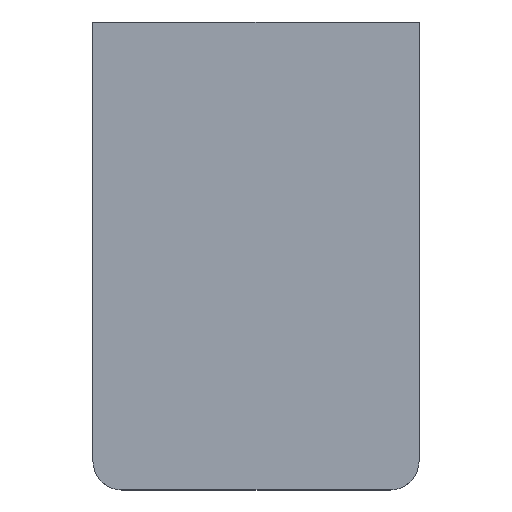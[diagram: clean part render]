
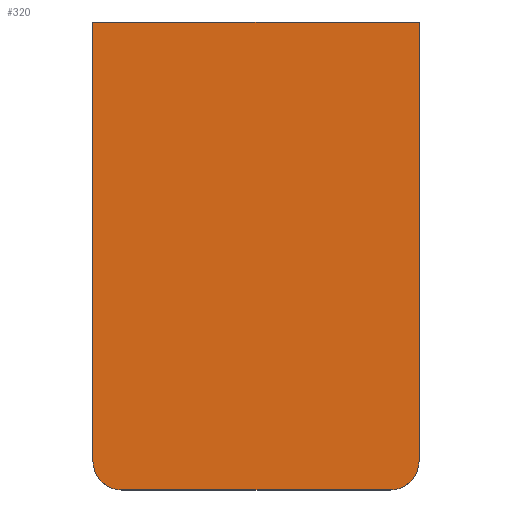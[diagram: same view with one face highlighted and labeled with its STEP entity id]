
A CAD part, top view. The second image highlights one B-rep face of the part: STEP entity #320.
In plain terms, the highlighted planar face has unit normal (0, 0, 1).
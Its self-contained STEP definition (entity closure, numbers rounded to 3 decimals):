
#32 = PLANE('',#33);
#33 = AXIS2_PLACEMENT_3D('',#34,#35,#36);
#34 = CARTESIAN_POINT('',(-28.75,32.7,-9.9));
#35 = DIRECTION('',(-1.,0.,0.));
#36 = DIRECTION('',(0.,1.,0.));
#57 = VERTEX_POINT('',#58);
#58 = CARTESIAN_POINT('',(-28.75,32.7,-7.9));
#72 = CYLINDRICAL_SURFACE('',#73,0.7);
#73 = AXIS2_PLACEMENT_3D('',#74,#75,#76);
#74 = CARTESIAN_POINT('',(-28.05,32.7,-9.9));
#75 = DIRECTION('',(-0.,-0.,-1.));
#76 = DIRECTION('',(1.,0.,0.));
#84 = EDGE_CURVE('',#57,#85,#87,.T.);
#85 = VERTEX_POINT('',#86);
#86 = CARTESIAN_POINT('',(-28.75,43.48,-7.9));
#87 = SURFACE_CURVE('',#88,(#92,#99),.PCURVE_S1.);
#88 = LINE('',#89,#90);
#89 = CARTESIAN_POINT('',(-28.75,45.,-7.9));
#90 = VECTOR('',#91,1.);
#91 = DIRECTION('',(0.,1.,0.));
#92 = PCURVE('',#32,#93);
#93 = DEFINITIONAL_REPRESENTATION('',(#94),#98);
#94 = LINE('',#95,#96);
#95 = CARTESIAN_POINT('',(12.3,-2.));
#96 = VECTOR('',#97,1.);
#97 = DIRECTION('',(1.,0.));
#98 = ( GEOMETRIC_REPRESENTATION_CONTEXT(2) 
PARAMETRIC_REPRESENTATION_CONTEXT() REPRESENTATION_CONTEXT('2D SPACE',''
  ) );
#99 = PCURVE('',#100,#105);
#100 = PLANE('',#101);
#101 = AXIS2_PLACEMENT_3D('',#102,#103,#104);
#102 = CARTESIAN_POINT('',(-24.75,45.,-7.9));
#103 = DIRECTION('',(0.,0.,1.));
#104 = DIRECTION('',(1.,0.,-0.));
#105 = DEFINITIONAL_REPRESENTATION('',(#106),#110);
#106 = LINE('',#107,#108);
#107 = CARTESIAN_POINT('',(-4.,0.));
#108 = VECTOR('',#109,1.);
#109 = DIRECTION('',(0.,1.));
#110 = ( GEOMETRIC_REPRESENTATION_CONTEXT(2) 
PARAMETRIC_REPRESENTATION_CONTEXT() REPRESENTATION_CONTEXT('2D SPACE',''
  ) );
#126 = PLANE('',#127);
#127 = AXIS2_PLACEMENT_3D('',#128,#129,#130);
#128 = CARTESIAN_POINT('',(-29.,43.48,-10.));
#129 = DIRECTION('',(-0.,1.,0.));
#130 = DIRECTION('',(0.,0.,1.));
#182 = PLANE('',#183);
#183 = AXIS2_PLACEMENT_3D('',#184,#185,#186);
#184 = CARTESIAN_POINT('',(-28.05,32.,-9.9));
#185 = DIRECTION('',(0.,1.,0.));
#186 = DIRECTION('',(1.,0.,0.));
#211 = CYLINDRICAL_SURFACE('',#212,0.7);
#212 = AXIS2_PLACEMENT_3D('',#213,#214,#215);
#213 = CARTESIAN_POINT('',(-21.45,32.7,-9.9));
#214 = DIRECTION('',(-0.,-0.,-1.));
#215 = DIRECTION('',(1.,0.,0.));
#239 = PLANE('',#240);
#240 = AXIS2_PLACEMENT_3D('',#241,#242,#243);
#241 = CARTESIAN_POINT('',(-20.75,32.7,-9.9));
#242 = DIRECTION('',(-1.,0.,0.));
#243 = DIRECTION('',(0.,1.,0.));
#276 = EDGE_CURVE('',#277,#85,#279,.T.);
#277 = VERTEX_POINT('',#278);
#278 = CARTESIAN_POINT('',(-20.75,43.48,-7.9));
#279 = SURFACE_CURVE('',#280,(#284,#291),.PCURVE_S1.);
#280 = LINE('',#281,#282);
#281 = CARTESIAN_POINT('',(-26.875,43.48,-7.9));
#282 = VECTOR('',#283,1.);
#283 = DIRECTION('',(-1.,-0.,0.));
#284 = PCURVE('',#126,#285);
#285 = DEFINITIONAL_REPRESENTATION('',(#286),#290);
#286 = LINE('',#287,#288);
#287 = CARTESIAN_POINT('',(2.1,2.125));
#288 = VECTOR('',#289,1.);
#289 = DIRECTION('',(0.,-1.));
#290 = ( GEOMETRIC_REPRESENTATION_CONTEXT(2) 
PARAMETRIC_REPRESENTATION_CONTEXT() REPRESENTATION_CONTEXT('2D SPACE',''
  ) );
#291 = PCURVE('',#100,#292);
#292 = DEFINITIONAL_REPRESENTATION('',(#293),#297);
#293 = LINE('',#294,#295);
#294 = CARTESIAN_POINT('',(-2.125,-1.52));
#295 = VECTOR('',#296,1.);
#296 = DIRECTION('',(-1.,0.));
#297 = ( GEOMETRIC_REPRESENTATION_CONTEXT(2) 
PARAMETRIC_REPRESENTATION_CONTEXT() REPRESENTATION_CONTEXT('2D SPACE',''
  ) );
#320 = ADVANCED_FACE('',(#321),#100,.T.);
#321 = FACE_BOUND('',#322,.T.);
#322 = EDGE_LOOP('',(#323,#324,#348,#371,#395,#416));
#323 = ORIENTED_EDGE('',*,*,#84,.F.);
#324 = ORIENTED_EDGE('',*,*,#325,.T.);
#325 = EDGE_CURVE('',#57,#326,#328,.T.);
#326 = VERTEX_POINT('',#327);
#327 = CARTESIAN_POINT('',(-28.05,32.,-7.9));
#328 = SURFACE_CURVE('',#329,(#334,#341),.PCURVE_S1.);
#329 = CIRCLE('',#330,0.7);
#330 = AXIS2_PLACEMENT_3D('',#331,#332,#333);
#331 = CARTESIAN_POINT('',(-28.05,32.7,-7.9));
#332 = DIRECTION('',(0.,0.,1.));
#333 = DIRECTION('',(1.,0.,-0.));
#334 = PCURVE('',#100,#335);
#335 = DEFINITIONAL_REPRESENTATION('',(#336),#340);
#336 = CIRCLE('',#337,0.7);
#337 = AXIS2_PLACEMENT_2D('',#338,#339);
#338 = CARTESIAN_POINT('',(-3.3,-12.3));
#339 = DIRECTION('',(1.,0.));
#340 = ( GEOMETRIC_REPRESENTATION_CONTEXT(2) 
PARAMETRIC_REPRESENTATION_CONTEXT() REPRESENTATION_CONTEXT('2D SPACE',''
  ) );
#341 = PCURVE('',#72,#342);
#342 = DEFINITIONAL_REPRESENTATION('',(#343),#347);
#343 = LINE('',#344,#345);
#344 = CARTESIAN_POINT('',(6.283,-2.));
#345 = VECTOR('',#346,1.);
#346 = DIRECTION('',(-1.,0.));
#347 = ( GEOMETRIC_REPRESENTATION_CONTEXT(2) 
PARAMETRIC_REPRESENTATION_CONTEXT() REPRESENTATION_CONTEXT('2D SPACE',''
  ) );
#348 = ORIENTED_EDGE('',*,*,#349,.T.);
#349 = EDGE_CURVE('',#326,#350,#352,.T.);
#350 = VERTEX_POINT('',#351);
#351 = CARTESIAN_POINT('',(-21.45,32.,-7.9));
#352 = SURFACE_CURVE('',#353,(#357,#364),.PCURVE_S1.);
#353 = LINE('',#354,#355);
#354 = CARTESIAN_POINT('',(-24.75,32.,-7.9));
#355 = VECTOR('',#356,1.);
#356 = DIRECTION('',(1.,0.,0.));
#357 = PCURVE('',#100,#358);
#358 = DEFINITIONAL_REPRESENTATION('',(#359),#363);
#359 = LINE('',#360,#361);
#360 = CARTESIAN_POINT('',(0.,-13.));
#361 = VECTOR('',#362,1.);
#362 = DIRECTION('',(1.,0.));
#363 = ( GEOMETRIC_REPRESENTATION_CONTEXT(2) 
PARAMETRIC_REPRESENTATION_CONTEXT() REPRESENTATION_CONTEXT('2D SPACE',''
  ) );
#364 = PCURVE('',#182,#365);
#365 = DEFINITIONAL_REPRESENTATION('',(#366),#370);
#366 = LINE('',#367,#368);
#367 = CARTESIAN_POINT('',(3.3,-2.));
#368 = VECTOR('',#369,1.);
#369 = DIRECTION('',(1.,0.));
#370 = ( GEOMETRIC_REPRESENTATION_CONTEXT(2) 
PARAMETRIC_REPRESENTATION_CONTEXT() REPRESENTATION_CONTEXT('2D SPACE',''
  ) );
#371 = ORIENTED_EDGE('',*,*,#372,.T.);
#372 = EDGE_CURVE('',#350,#373,#375,.T.);
#373 = VERTEX_POINT('',#374);
#374 = CARTESIAN_POINT('',(-20.75,32.7,-7.9));
#375 = SURFACE_CURVE('',#376,(#381,#388),.PCURVE_S1.);
#376 = CIRCLE('',#377,0.7);
#377 = AXIS2_PLACEMENT_3D('',#378,#379,#380);
#378 = CARTESIAN_POINT('',(-21.45,32.7,-7.9));
#379 = DIRECTION('',(0.,0.,1.));
#380 = DIRECTION('',(1.,0.,-0.));
#381 = PCURVE('',#100,#382);
#382 = DEFINITIONAL_REPRESENTATION('',(#383),#387);
#383 = CIRCLE('',#384,0.7);
#384 = AXIS2_PLACEMENT_2D('',#385,#386);
#385 = CARTESIAN_POINT('',(3.3,-12.3));
#386 = DIRECTION('',(1.,0.));
#387 = ( GEOMETRIC_REPRESENTATION_CONTEXT(2) 
PARAMETRIC_REPRESENTATION_CONTEXT() REPRESENTATION_CONTEXT('2D SPACE',''
  ) );
#388 = PCURVE('',#211,#389);
#389 = DEFINITIONAL_REPRESENTATION('',(#390),#394);
#390 = LINE('',#391,#392);
#391 = CARTESIAN_POINT('',(6.283,-2.));
#392 = VECTOR('',#393,1.);
#393 = DIRECTION('',(-1.,0.));
#394 = ( GEOMETRIC_REPRESENTATION_CONTEXT(2) 
PARAMETRIC_REPRESENTATION_CONTEXT() REPRESENTATION_CONTEXT('2D SPACE',''
  ) );
#395 = ORIENTED_EDGE('',*,*,#396,.T.);
#396 = EDGE_CURVE('',#373,#277,#397,.T.);
#397 = SURFACE_CURVE('',#398,(#402,#409),.PCURVE_S1.);
#398 = LINE('',#399,#400);
#399 = CARTESIAN_POINT('',(-20.75,45.,-7.9));
#400 = VECTOR('',#401,1.);
#401 = DIRECTION('',(0.,1.,0.));
#402 = PCURVE('',#100,#403);
#403 = DEFINITIONAL_REPRESENTATION('',(#404),#408);
#404 = LINE('',#405,#406);
#405 = CARTESIAN_POINT('',(4.,0.));
#406 = VECTOR('',#407,1.);
#407 = DIRECTION('',(0.,1.));
#408 = ( GEOMETRIC_REPRESENTATION_CONTEXT(2) 
PARAMETRIC_REPRESENTATION_CONTEXT() REPRESENTATION_CONTEXT('2D SPACE',''
  ) );
#409 = PCURVE('',#239,#410);
#410 = DEFINITIONAL_REPRESENTATION('',(#411),#415);
#411 = LINE('',#412,#413);
#412 = CARTESIAN_POINT('',(12.3,-2.));
#413 = VECTOR('',#414,1.);
#414 = DIRECTION('',(1.,0.));
#415 = ( GEOMETRIC_REPRESENTATION_CONTEXT(2) 
PARAMETRIC_REPRESENTATION_CONTEXT() REPRESENTATION_CONTEXT('2D SPACE',''
  ) );
#416 = ORIENTED_EDGE('',*,*,#276,.T.);
